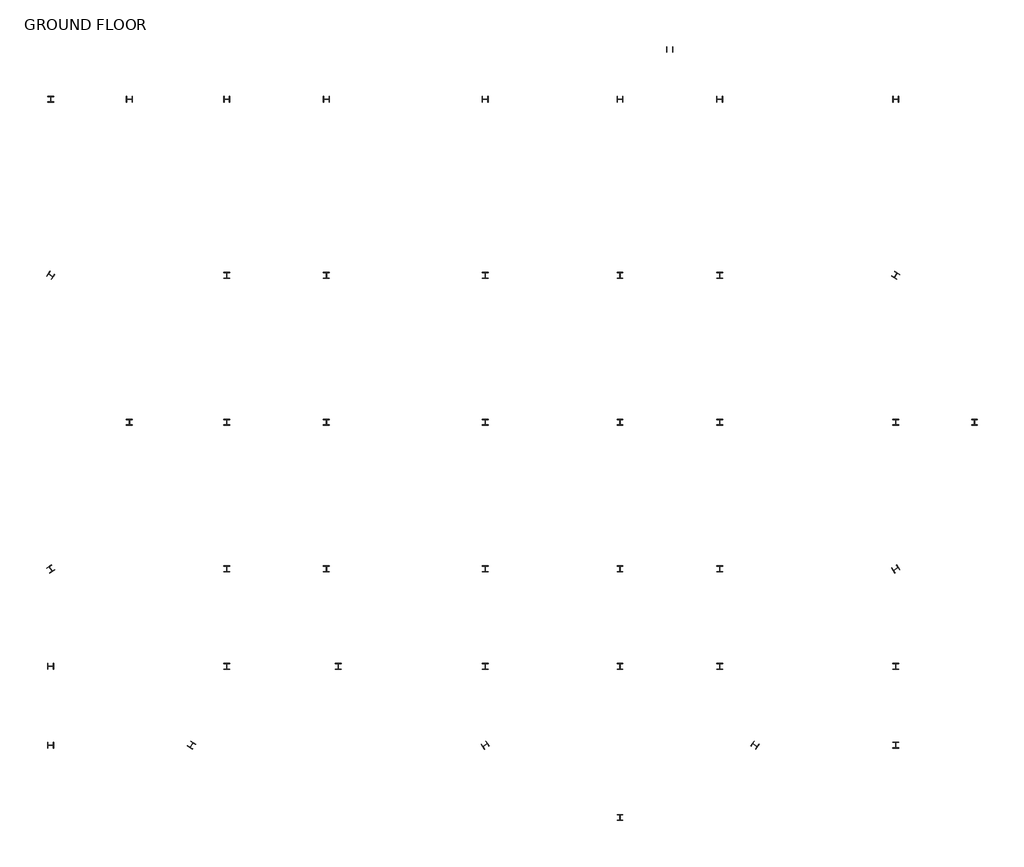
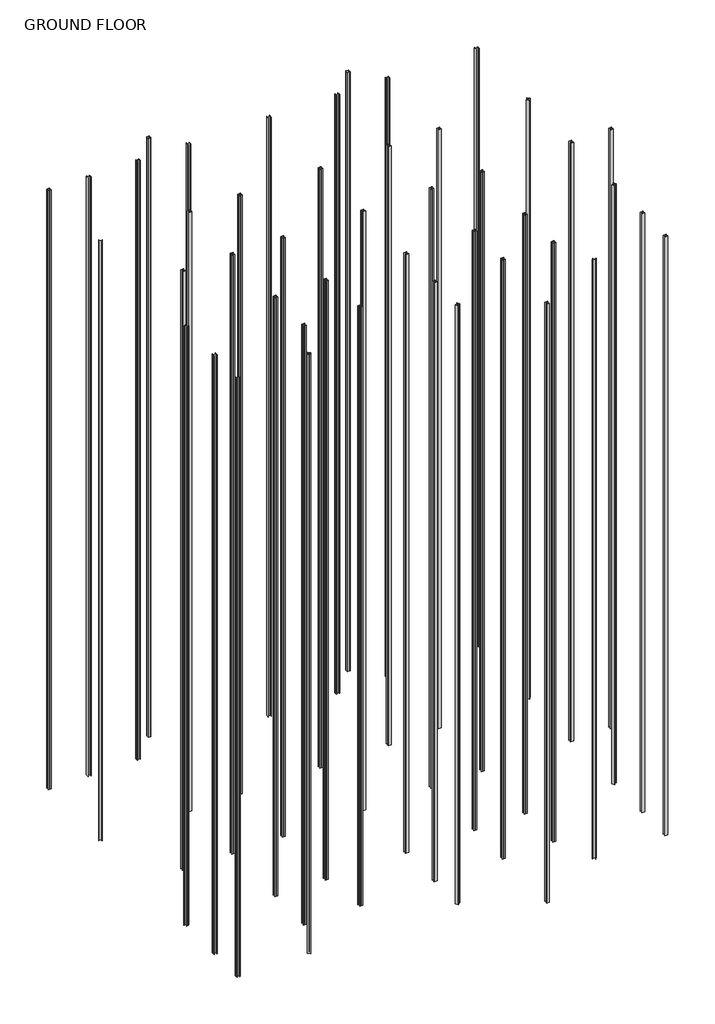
# One storey: 45 columns.
"""IFC4 building model written with IfcOpenShell, lengths in millimetres."""

from ifc_helpers import new_model, si_unit, origin, place, context, project, spatial, transform, mapped, element, save
from components import square_hollow_sections_column_shs300x300x10_072c9116, uc_universal_columns_column_uc305x305x97_24c5e44f

model = new_model("IFC4")

# Units and contexts
model_context = context("Model", 3, world=origin())
ifc_project = project(units=[si_unit("LENGTHUNIT", "METRE", prefix="MILLI")], contexts=[model_context])

# Site, building, storey
site = spatial("IfcSite", under=ifc_project)
building = spatial("IfcBuilding", under=site)
storey = spatial("IfcBuildingStorey", under=building, Name="GROUND FLOOR", Elevation=0.0)

# Columns
placement = place(None, origin())
square_hollow_sections_column_shs300x300x10_shape = square_hollow_sections_column_shs300x300x10_072c9116(model_context)
element("IfcColumn", 1, ObjectType="Square Hollow Sections-Column : SHS300x300x10", at=placement, inside=storey, context=model_context, shape_type="MappedRepresentation", body=[
    mapped(square_hollow_sections_column_shs300x300x10_shape, transform((11885.575, 36269.575, 0.0), x_axis=(0.0, 1.0, 0.0), y_axis=(-1.0, 0.0, 0.0), z_axis=(0.0, 0.0, 1.0))),
])
element("IfcColumn", 2, ObjectType="Square Hollow Sections-Column : SHS300x300x10", at=placement, inside=storey, context=model_context, shape_type="MappedRepresentation", body=[
    mapped(square_hollow_sections_column_shs300x300x10_shape, transform((32297.575, 36269.575, 0.0), x_axis=(0.0, 1.0, 0.0), y_axis=(-1.0, 0.0, 0.0), z_axis=(0.0, 0.0, 1.0))),
])
uc_universal_columns_column_uc305x305x97_shape = uc_universal_columns_column_uc305x305x97_24c5e44f(model_context)
element("IfcColumn", 3, ObjectType="UC-Universal Columns-Column : UC305x305x97", at=placement, inside=storey, context=model_context, shape_type="MappedRepresentation", body=[
    mapped(uc_universal_columns_column_uc305x305x97_shape, transform((155.575, 33683.575, 0.0), x_axis=(1.0, 0.0, 0.0), y_axis=(0.0, 1.0, 0.0), z_axis=(0.0, 0.0, 1.0))),
])
element("IfcColumn", 4, ObjectType="UC-Universal Columns-Column : UC305x305x97", at=placement, inside=storey, context=model_context, shape_type="MappedRepresentation", body=[
    mapped(uc_universal_columns_column_uc305x305x97_shape, transform((155.575, 24539.575, 0.0), x_axis=(0.5527707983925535, 0.8333333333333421, 0.0), y_axis=(-0.8333333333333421, 0.5527707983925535, 0.0), z_axis=(0.0, 0.0, 1.0))),
])
element("IfcColumn", 5, ObjectType="UC-Universal Columns-Column : UC305x305x97", at=placement, inside=storey, context=model_context, shape_type="MappedRepresentation", body=[
    mapped(uc_universal_columns_column_uc305x305x97_shape, transform((4244.575, 16919.575, 0.0), x_axis=(-1.0, 0.0, 0.0), y_axis=(0.0, -1.0, 0.0), z_axis=(0.0, 0.0, 1.0))),
])
element("IfcColumn", 6, ObjectType="UC-Universal Columns-Column : UC305x305x97", at=placement, inside=storey, context=model_context, shape_type="MappedRepresentation", body=[
    mapped(uc_universal_columns_column_uc305x305x97_shape, transform((155.575, 9299.575, 0.0), x_axis=(-0.8333333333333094, -0.5527707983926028, 0.0), y_axis=(0.5527707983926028, -0.8333333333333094, 0.0), z_axis=(0.0, 0.0, 1.0))),
])
element("IfcColumn", 7, ObjectType="UC-Universal Columns-Column : UC305x305x97", at=placement, inside=storey, context=model_context, shape_type="MappedRepresentation", body=[
    mapped(uc_universal_columns_column_uc305x305x97_shape, transform((155.575, 4244.575, 0.0), x_axis=(0.0, -1.0, 0.0), y_axis=(1.0, 0.0, 0.0), z_axis=(0.0, 0.0, 1.0))),
])
element("IfcColumn", 8, ObjectType="UC-Universal Columns-Column : UC305x305x97", at=placement, inside=storey, context=model_context, shape_type="MappedRepresentation", body=[
    mapped(uc_universal_columns_column_uc305x305x97_shape, transform((155.575, 155.575, 0.0), x_axis=(0.0, -1.0, 0.0), y_axis=(1.0, 0.0, 0.0), z_axis=(0.0, 0.0, 1.0))),
])
element("IfcColumn", 9, ObjectType="UC-Universal Columns-Column : UC305x305x97", at=placement, inside=storey, context=model_context, shape_type="MappedRepresentation", body=[
    mapped(uc_universal_columns_column_uc305x305x97_shape, transform((4244.575, 33683.575, 0.0), x_axis=(0.0, -1.0, 0.0), y_axis=(1.0, 0.0, 0.0), z_axis=(0.0, 0.0, 1.0))),
])
element("IfcColumn", 10, ObjectType="UC-Universal Columns-Column : UC305x305x97", at=placement, inside=storey, context=model_context, shape_type="MappedRepresentation", body=[
    mapped(uc_universal_columns_column_uc305x305x97_shape, transform((9299.575, 33683.575, 0.0), x_axis=(0.0, -1.0, 0.0), y_axis=(1.0, 0.0, 0.0), z_axis=(0.0, 0.0, 1.0))),
])
element("IfcColumn", 11, ObjectType="UC-Universal Columns-Column : UC305x305x97", at=placement, inside=storey, context=model_context, shape_type="MappedRepresentation", body=[
    mapped(uc_universal_columns_column_uc305x305x97_shape, transform((14471.575, 33683.575, 0.0), x_axis=(0.0, 1.0, 0.0), y_axis=(-1.0, 0.0, 0.0), z_axis=(0.0, 0.0, 1.0))),
])
element("IfcColumn", 12, ObjectType="UC-Universal Columns-Column : UC305x305x97", at=placement, inside=storey, context=model_context, shape_type="MappedRepresentation", body=[
    mapped(uc_universal_columns_column_uc305x305x97_shape, transform((22710.575, 33683.575, 0.0), x_axis=(0.0, 1.0, 0.0), y_axis=(-1.0, 0.0, 0.0), z_axis=(0.0, 0.0, 1.0))),
])
element("IfcColumn", 13, ObjectType="UC-Universal Columns-Column : UC305x305x97", at=placement, inside=storey, context=model_context, shape_type="MappedRepresentation", body=[
    mapped(uc_universal_columns_column_uc305x305x97_shape, transform((29711.575, 33683.575, 0.0), x_axis=(0.0, 1.0, 0.0), y_axis=(-1.0, 0.0, 0.0), z_axis=(0.0, 0.0, 1.0))),
])
element("IfcColumn", 14, ObjectType="UC-Universal Columns-Column : UC305x305x97", at=placement, inside=storey, context=model_context, shape_type="MappedRepresentation", body=[
    mapped(uc_universal_columns_column_uc305x305x97_shape, transform((34883.575, 33683.575, 0.0), x_axis=(0.0, 1.0, 0.0), y_axis=(-1.0, 0.0, 0.0), z_axis=(0.0, 0.0, 1.0))),
])
element("IfcColumn", 15, ObjectType="UC-Universal Columns-Column : UC305x305x97", at=placement, inside=storey, context=model_context, shape_type="MappedRepresentation", body=[
    mapped(uc_universal_columns_column_uc305x305x97_shape, transform((44027.575, 33683.575, 0.0), x_axis=(0.0, 1.0, 0.0), y_axis=(-1.0, 0.0, 0.0), z_axis=(0.0, 0.0, 1.0))),
])
element("IfcColumn", 16, ObjectType="UC-Universal Columns-Column : UC305x305x97", at=placement, inside=storey, context=model_context, shape_type="MappedRepresentation", body=[
    mapped(uc_universal_columns_column_uc305x305x97_shape, transform((44027.575, 24539.575, 0.0), x_axis=(-0.8333965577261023, 0.5526754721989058, 0.0), y_axis=(-0.5526754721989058, -0.8333965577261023, 0.0), z_axis=(0.0, 0.0, 1.0))),
])
element("IfcColumn", 17, ObjectType="UC-Universal Columns-Column : UC305x305x97", at=placement, inside=storey, context=model_context, shape_type="MappedRepresentation", body=[
    mapped(uc_universal_columns_column_uc305x305x97_shape, transform((48116.575, 16919.575, 0.0), x_axis=(-1.0, 0.0, 0.0), y_axis=(0.0, -1.0, 0.0), z_axis=(0.0, 0.0, 1.0))),
])
element("IfcColumn", 18, ObjectType="UC-Universal Columns-Column : UC305x305x97", at=placement, inside=storey, context=model_context, shape_type="MappedRepresentation", body=[
    mapped(uc_universal_columns_column_uc305x305x97_shape, transform((44027.575, 9299.575, 0.0), x_axis=(-0.5526754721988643, 0.8333965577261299, 0.0), y_axis=(-0.8333965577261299, -0.5526754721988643, 0.0), z_axis=(0.0, 0.0, 1.0))),
])
element("IfcColumn", 19, ObjectType="UC-Universal Columns-Column : UC305x305x97", at=placement, inside=storey, context=model_context, shape_type="MappedRepresentation", body=[
    mapped(uc_universal_columns_column_uc305x305x97_shape, transform((44027.575, 16919.575, 0.0), x_axis=(-1.0, 0.0, 0.0), y_axis=(0.0, -1.0, 0.0), z_axis=(0.0, 0.0, 1.0))),
])
element("IfcColumn", 20, ObjectType="UC-Universal Columns-Column : UC305x305x97", at=placement, inside=storey, context=model_context, shape_type="MappedRepresentation", body=[
    mapped(uc_universal_columns_column_uc305x305x97_shape, transform((44027.575, 4244.575, 0.0), x_axis=(-1.0, 0.0, 0.0), y_axis=(0.0, -1.0, 0.0), z_axis=(0.0, 0.0, 1.0))),
])
element("IfcColumn", 21, ObjectType="UC-Universal Columns-Column : UC305x305x97", at=placement, inside=storey, context=model_context, shape_type="MappedRepresentation", body=[
    mapped(uc_universal_columns_column_uc305x305x97_shape, transform((44027.575, 155.575, 0.0), x_axis=(-1.0, 0.0, 0.0), y_axis=(0.0, -1.0, 0.0), z_axis=(0.0, 0.0, 1.0))),
])
element("IfcColumn", 22, ObjectType="UC-Universal Columns-Column : UC305x305x97", at=placement, inside=storey, context=model_context, shape_type="MappedRepresentation", body=[
    mapped(uc_universal_columns_column_uc305x305x97_shape, transform((36716.575, 155.575, 0.0), x_axis=(-0.5526093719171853, -0.8334403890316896, 0.0), y_axis=(0.8334403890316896, -0.5526093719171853, 0.0), z_axis=(0.0, 0.0, 1.0))),
])
element("IfcColumn", 23, ObjectType="UC-Universal Columns-Column : UC305x305x97", at=placement, inside=storey, context=model_context, shape_type="MappedRepresentation", body=[
    mapped(uc_universal_columns_column_uc305x305x97_shape, transform((29711.575, -3601.425, 0.0), x_axis=(-0.9999999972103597, 7.469458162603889e-05, 0.0), y_axis=(-7.469458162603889e-05, -0.9999999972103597, 0.0), z_axis=(0.0, 0.0, 1.0))),
])
element("IfcColumn", 24, ObjectType="UC-Universal Columns-Column : UC305x305x97", at=placement, inside=storey, context=model_context, shape_type="MappedRepresentation", body=[
    mapped(uc_universal_columns_column_uc305x305x97_shape, transform((22710.575, 155.575, 0.0), x_axis=(-0.5527598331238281, 0.8333406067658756, 0.0), y_axis=(-0.8333406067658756, -0.5527598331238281, 0.0), z_axis=(0.0, 0.0, 1.0))),
])
element("IfcColumn", 25, ObjectType="UC-Universal Columns-Column : UC305x305x97", at=placement, inside=storey, context=model_context, shape_type="MappedRepresentation", body=[
    mapped(uc_universal_columns_column_uc305x305x97_shape, transform((15090.575, 4244.575, 0.0), x_axis=(-1.0, 0.0, 0.0), y_axis=(0.0, -1.0, 0.0), z_axis=(0.0, 0.0, 1.0))),
])
element("IfcColumn", 26, ObjectType="UC-Universal Columns-Column : UC305x305x97", at=placement, inside=storey, context=model_context, shape_type="MappedRepresentation", body=[
    mapped(uc_universal_columns_column_uc305x305x97_shape, transform((7470.575, 155.575, 0.0), x_axis=(0.8333400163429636, -0.5527607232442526, 0.0), y_axis=(0.5527607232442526, 0.8333400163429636, 0.0), z_axis=(0.0, 0.0, 1.0))),
])
element("IfcColumn", 27, ObjectType="UC-Universal Columns-Column : UC305x305x97", at=placement, inside=storey, context=model_context, shape_type="MappedRepresentation", body=[
    mapped(uc_universal_columns_column_uc305x305x97_shape, transform((9299.575, 4244.575, 0.0), x_axis=(1.0, 0.0, 0.0), y_axis=(0.0, 1.0, 0.0), z_axis=(0.0, 0.0, 1.0))),
])
element("IfcColumn", 28, ObjectType="UC-Universal Columns-Column : UC305x305x97", at=placement, inside=storey, context=model_context, shape_type="MappedRepresentation", body=[
    mapped(uc_universal_columns_column_uc305x305x97_shape, transform((9299.575, 9299.575, 0.0), x_axis=(1.0, 0.0, 0.0), y_axis=(0.0, 1.0, 0.0), z_axis=(0.0, 0.0, 1.0))),
])
element("IfcColumn", 29, ObjectType="UC-Universal Columns-Column : UC305x305x97", at=placement, inside=storey, context=model_context, shape_type="MappedRepresentation", body=[
    mapped(uc_universal_columns_column_uc305x305x97_shape, transform((9299.575, 16919.575, 0.0), x_axis=(1.0, 0.0, 0.0), y_axis=(0.0, 1.0, 0.0), z_axis=(0.0, 0.0, 1.0))),
])
element("IfcColumn", 30, ObjectType="UC-Universal Columns-Column : UC305x305x97", at=placement, inside=storey, context=model_context, shape_type="MappedRepresentation", body=[
    mapped(uc_universal_columns_column_uc305x305x97_shape, transform((9299.575, 24539.575, 0.0), x_axis=(1.0, 0.0, 0.0), y_axis=(0.0, 1.0, 0.0), z_axis=(0.0, 0.0, 1.0))),
])
element("IfcColumn", 31, ObjectType="UC-Universal Columns-Column : UC305x305x97", at=placement, inside=storey, context=model_context, shape_type="MappedRepresentation", body=[
    mapped(uc_universal_columns_column_uc305x305x97_shape, transform((14471.575, 9299.575, 0.0), x_axis=(1.0, 0.0, 0.0), y_axis=(0.0, 1.0, 0.0), z_axis=(0.0, 0.0, 1.0))),
])
element("IfcColumn", 32, ObjectType="UC-Universal Columns-Column : UC305x305x97", at=placement, inside=storey, context=model_context, shape_type="MappedRepresentation", body=[
    mapped(uc_universal_columns_column_uc305x305x97_shape, transform((14471.575, 16919.575, 0.0), x_axis=(1.0, 0.0, 0.0), y_axis=(0.0, 1.0, 0.0), z_axis=(0.0, 0.0, 1.0))),
])
element("IfcColumn", 33, ObjectType="UC-Universal Columns-Column : UC305x305x97", at=placement, inside=storey, context=model_context, shape_type="MappedRepresentation", body=[
    mapped(uc_universal_columns_column_uc305x305x97_shape, transform((14471.575, 24539.575, 0.0), x_axis=(1.0, 0.0, 0.0), y_axis=(0.0, 1.0, 0.0), z_axis=(0.0, 0.0, 1.0))),
])
element("IfcColumn", 34, ObjectType="UC-Universal Columns-Column : UC305x305x97", at=placement, inside=storey, context=model_context, shape_type="MappedRepresentation", body=[
    mapped(uc_universal_columns_column_uc305x305x97_shape, transform((22710.575, 24539.575, 0.0), x_axis=(1.0, 0.0, 0.0), y_axis=(0.0, 1.0, 0.0), z_axis=(0.0, 0.0, 1.0))),
])
element("IfcColumn", 35, ObjectType="UC-Universal Columns-Column : UC305x305x97", at=placement, inside=storey, context=model_context, shape_type="MappedRepresentation", body=[
    mapped(uc_universal_columns_column_uc305x305x97_shape, transform((29711.575, 24539.575, 0.0), x_axis=(1.0, 0.0, 0.0), y_axis=(0.0, 1.0, 0.0), z_axis=(0.0, 0.0, 1.0))),
])
element("IfcColumn", 36, ObjectType="UC-Universal Columns-Column : UC305x305x97", at=placement, inside=storey, context=model_context, shape_type="MappedRepresentation", body=[
    mapped(uc_universal_columns_column_uc305x305x97_shape, transform((34883.575, 24539.575, 0.0), x_axis=(1.0, 0.0, 0.0), y_axis=(0.0, 1.0, 0.0), z_axis=(0.0, 0.0, 1.0))),
])
element("IfcColumn", 37, ObjectType="UC-Universal Columns-Column : UC305x305x97", at=placement, inside=storey, context=model_context, shape_type="MappedRepresentation", body=[
    mapped(uc_universal_columns_column_uc305x305x97_shape, transform((34883.575, 16919.575, 0.0), x_axis=(1.0, 0.0, 0.0), y_axis=(0.0, 1.0, 0.0), z_axis=(0.0, 0.0, 1.0))),
])
element("IfcColumn", 38, ObjectType="UC-Universal Columns-Column : UC305x305x97", at=placement, inside=storey, context=model_context, shape_type="MappedRepresentation", body=[
    mapped(uc_universal_columns_column_uc305x305x97_shape, transform((34883.575, 9299.575, 0.0), x_axis=(1.0, 0.0, 0.0), y_axis=(0.0, 1.0, 0.0), z_axis=(0.0, 0.0, 1.0))),
])
element("IfcColumn", 39, ObjectType="UC-Universal Columns-Column : UC305x305x97", at=placement, inside=storey, context=model_context, shape_type="MappedRepresentation", body=[
    mapped(uc_universal_columns_column_uc305x305x97_shape, transform((34883.575, 4244.575, 0.0), x_axis=(1.0, 0.0, 0.0), y_axis=(0.0, 1.0, 0.0), z_axis=(0.0, 0.0, 1.0))),
])
element("IfcColumn", 40, ObjectType="UC-Universal Columns-Column : UC305x305x97", at=placement, inside=storey, context=model_context, shape_type="MappedRepresentation", body=[
    mapped(uc_universal_columns_column_uc305x305x97_shape, transform((29711.575, 4244.575, 0.0), x_axis=(1.0, 0.0, 0.0), y_axis=(0.0, 1.0, 0.0), z_axis=(0.0, 0.0, 1.0))),
])
element("IfcColumn", 41, ObjectType="UC-Universal Columns-Column : UC305x305x97", at=placement, inside=storey, context=model_context, shape_type="MappedRepresentation", body=[
    mapped(uc_universal_columns_column_uc305x305x97_shape, transform((29711.575, 9299.575, 0.0), x_axis=(1.0, 0.0, 0.0), y_axis=(0.0, 1.0, 0.0), z_axis=(0.0, 0.0, 1.0))),
])
element("IfcColumn", 42, ObjectType="UC-Universal Columns-Column : UC305x305x97", at=placement, inside=storey, context=model_context, shape_type="MappedRepresentation", body=[
    mapped(uc_universal_columns_column_uc305x305x97_shape, transform((29711.575, 16919.575, 0.0), x_axis=(1.0, 0.0, 0.0), y_axis=(0.0, 1.0, 0.0), z_axis=(0.0, 0.0, 1.0))),
])
element("IfcColumn", 43, ObjectType="UC-Universal Columns-Column : UC305x305x97", at=placement, inside=storey, context=model_context, shape_type="MappedRepresentation", body=[
    mapped(uc_universal_columns_column_uc305x305x97_shape, transform((22710.575, 16919.575, 0.0), x_axis=(1.0, 0.0, 0.0), y_axis=(0.0, 1.0, 0.0), z_axis=(0.0, 0.0, 1.0))),
])
element("IfcColumn", 44, ObjectType="UC-Universal Columns-Column : UC305x305x97", at=placement, inside=storey, context=model_context, shape_type="MappedRepresentation", body=[
    mapped(uc_universal_columns_column_uc305x305x97_shape, transform((22710.575, 9299.575, 0.0), x_axis=(1.0, 0.0, 0.0), y_axis=(0.0, 1.0, 0.0), z_axis=(0.0, 0.0, 1.0))),
])
element("IfcColumn", 45, ObjectType="UC-Universal Columns-Column : UC305x305x97", at=placement, inside=storey, context=model_context, shape_type="MappedRepresentation", body=[
    mapped(uc_universal_columns_column_uc305x305x97_shape, transform((22710.575, 4244.575, 0.0), x_axis=(1.0, 0.0, 0.0), y_axis=(0.0, 1.0, 0.0), z_axis=(0.0, 0.0, 1.0))),
])

save(model, "model.ifc")
